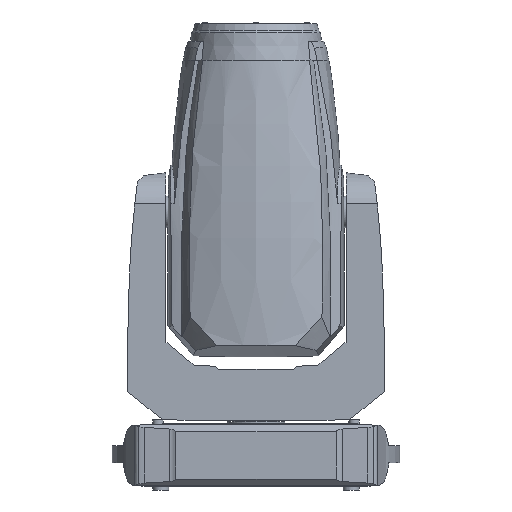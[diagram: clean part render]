
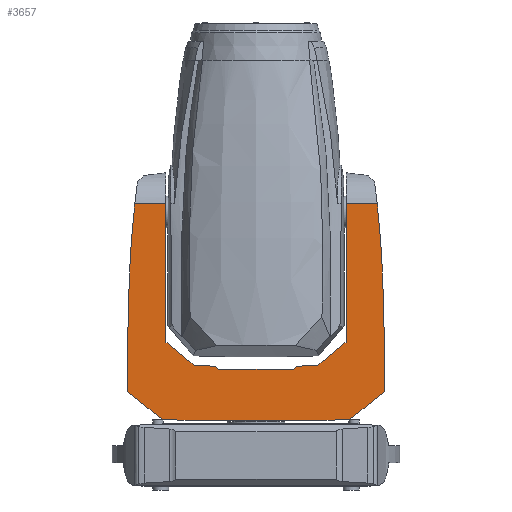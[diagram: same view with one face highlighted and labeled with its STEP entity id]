
A CAD part, front view. The second image highlights one B-rep face of the part: STEP entity #3657.
In plain terms, the highlighted planar face has unit normal (0, -1, 0).
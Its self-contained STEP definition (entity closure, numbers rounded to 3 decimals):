
#278=CIRCLE('',#4021,1603.258);
#281=CIRCLE('',#4025,1603.258);
#290=CIRCLE('',#4050,4394.519);
#291=CIRCLE('',#4051,4394.519);
#550=LINE('',#5866,#780);
#555=LINE('',#5881,#785);
#573=LINE('',#5927,#803);
#574=LINE('',#5930,#804);
#575=LINE('',#5932,#805);
#576=LINE('',#5934,#806);
#577=LINE('',#5936,#807);
#578=LINE('',#5938,#808);
#579=LINE('',#5941,#809);
#580=LINE('',#5942,#810);
#581=LINE('',#5944,#811);
#582=LINE('',#5946,#812);
#583=LINE('',#5948,#813);
#584=LINE('',#5950,#814);
#585=LINE('',#5952,#815);
#586=LINE('',#5954,#816);
#587=LINE('',#5956,#817);
#588=LINE('',#5958,#818);
#780=VECTOR('',#4809,1000.);
#785=VECTOR('',#4820,1000.);
#803=VECTOR('',#4860,1000.);
#804=VECTOR('',#4863,1000.);
#805=VECTOR('',#4864,1000.);
#806=VECTOR('',#4865,1000.);
#807=VECTOR('',#4866,1000.);
#808=VECTOR('',#4867,1000.);
#809=VECTOR('',#4870,1000.);
#810=VECTOR('',#4871,1000.);
#811=VECTOR('',#4872,1000.);
#812=VECTOR('',#4873,1000.);
#813=VECTOR('',#4874,1000.);
#814=VECTOR('',#4875,1000.);
#815=VECTOR('',#4876,1000.);
#816=VECTOR('',#4877,1000.);
#817=VECTOR('',#4878,1000.);
#818=VECTOR('',#4879,1000.);
#1501=ORIENTED_EDGE('',*,*,#2261,.F.);
#1502=ORIENTED_EDGE('',*,*,#2218,.F.);
#1503=ORIENTED_EDGE('',*,*,#2262,.F.);
#1504=ORIENTED_EDGE('',*,*,#2263,.F.);
#1505=ORIENTED_EDGE('',*,*,#2264,.F.);
#1506=ORIENTED_EDGE('',*,*,#2265,.F.);
#1507=ORIENTED_EDGE('',*,*,#2266,.F.);
#1508=ORIENTED_EDGE('',*,*,#2267,.F.);
#1509=ORIENTED_EDGE('',*,*,#2268,.F.);
#1510=ORIENTED_EDGE('',*,*,#2212,.F.);
#1511=ORIENTED_EDGE('',*,*,#2269,.F.);
#1512=ORIENTED_EDGE('',*,*,#2236,.F.);
#1513=ORIENTED_EDGE('',*,*,#2270,.F.);
#1514=ORIENTED_EDGE('',*,*,#2271,.F.);
#1515=ORIENTED_EDGE('',*,*,#2272,.F.);
#1516=ORIENTED_EDGE('',*,*,#2273,.F.);
#1517=ORIENTED_EDGE('',*,*,#2274,.F.);
#1518=ORIENTED_EDGE('',*,*,#2275,.F.);
#1519=ORIENTED_EDGE('',*,*,#2276,.F.);
#1520=ORIENTED_EDGE('',*,*,#2277,.F.);
#1521=ORIENTED_EDGE('',*,*,#2278,.F.);
#1522=ORIENTED_EDGE('',*,*,#2229,.F.);
#2212=EDGE_CURVE('',#2655,#2656,#278,.T.);
#2218=EDGE_CURVE('',#2661,#2662,#281,.T.);
#2229=EDGE_CURVE('',#2669,#2670,#550,.T.);
#2236=EDGE_CURVE('',#2676,#2677,#555,.T.);
#2261=EDGE_CURVE('',#2662,#2669,#573,.F.);
#2262=EDGE_CURVE('',#2694,#2661,#290,.T.);
#2263=EDGE_CURVE('',#2695,#2694,#574,.T.);
#2264=EDGE_CURVE('',#2696,#2695,#575,.T.);
#2265=EDGE_CURVE('',#2697,#2696,#576,.T.);
#2266=EDGE_CURVE('',#2698,#2697,#577,.T.);
#2267=EDGE_CURVE('',#2699,#2698,#578,.T.);
#2268=EDGE_CURVE('',#2656,#2699,#291,.T.);
#2269=EDGE_CURVE('',#2677,#2655,#579,.F.);
#2270=EDGE_CURVE('',#2700,#2676,#580,.T.);
#2271=EDGE_CURVE('',#2701,#2700,#581,.T.);
#2272=EDGE_CURVE('',#2702,#2701,#582,.T.);
#2273=EDGE_CURVE('',#2703,#2702,#583,.T.);
#2274=EDGE_CURVE('',#2704,#2703,#584,.T.);
#2275=EDGE_CURVE('',#2705,#2704,#585,.T.);
#2276=EDGE_CURVE('',#2706,#2705,#586,.T.);
#2277=EDGE_CURVE('',#2707,#2706,#587,.T.);
#2278=EDGE_CURVE('',#2670,#2707,#588,.T.);
#2655=VERTEX_POINT('',#5814);
#2656=VERTEX_POINT('',#5816);
#2661=VERTEX_POINT('',#5835);
#2662=VERTEX_POINT('',#5837);
#2669=VERTEX_POINT('',#5865);
#2670=VERTEX_POINT('',#5867);
#2676=VERTEX_POINT('',#5880);
#2677=VERTEX_POINT('',#5882);
#2694=VERTEX_POINT('',#5929);
#2695=VERTEX_POINT('',#5931);
#2696=VERTEX_POINT('',#5933);
#2697=VERTEX_POINT('',#5935);
#2698=VERTEX_POINT('',#5937);
#2699=VERTEX_POINT('',#5939);
#2700=VERTEX_POINT('',#5943);
#2701=VERTEX_POINT('',#5945);
#2702=VERTEX_POINT('',#5947);
#2703=VERTEX_POINT('',#5949);
#2704=VERTEX_POINT('',#5951);
#2705=VERTEX_POINT('',#5953);
#2706=VERTEX_POINT('',#5955);
#2707=VERTEX_POINT('',#5957);
#3039=EDGE_LOOP('',(#1501,#1502,#1503,#1504,#1505,#1506,#1507,#1508,#1509,
#1510,#1511,#1512,#1513,#1514,#1515,#1516,#1517,#1518,#1519,#1520,#1521,
#1522));
#3311=FACE_BOUND('',#3039,.T.);
#3495=PLANE('',#4049);
#3657=ADVANCED_FACE('',(#3311),#3495,.F.);
#4021=AXIS2_PLACEMENT_3D('',#5815,#4775,#4776);
#4025=AXIS2_PLACEMENT_3D('',#5836,#4785,#4786);
#4049=AXIS2_PLACEMENT_3D('',#5926,#4858,#4859);
#4050=AXIS2_PLACEMENT_3D('',#5928,#4861,#4862);
#4051=AXIS2_PLACEMENT_3D('',#5940,#4868,#4869);
#4775=DIRECTION('',(0.,1.,0.));
#4776=DIRECTION('',(-1.,0.,0.));
#4785=DIRECTION('',(0.,1.,0.));
#4786=DIRECTION('',(-1.,0.,0.));
#4809=DIRECTION('',(0.,0.,-1.));
#4820=DIRECTION('',(0.,0.,1.));
#4858=DIRECTION('',(0.,1.,0.));
#4859=DIRECTION('',(0.,0.,1.));
#4860=DIRECTION('',(-1.,0.,0.));
#4861=DIRECTION('',(0.,1.,0.));
#4862=DIRECTION('',(1.,0.,0.));
#4863=DIRECTION('',(-0.779,0.,0.627));
#4864=DIRECTION('',(-1.,0.,0.026));
#4865=DIRECTION('',(-1.,0.,0.));
#4866=DIRECTION('',(-1.,0.,-0.026));
#4867=DIRECTION('',(-0.779,0.,-0.627));
#4868=DIRECTION('',(0.,1.,0.));
#4869=DIRECTION('',(-1.,0.,0.));
#4870=DIRECTION('',(-1.,0.,0.));
#4871=DIRECTION('',(1.,0.,0.));
#4872=DIRECTION('',(0.766,0.,0.643));
#4873=DIRECTION('',(0.999,0.,0.052));
#4874=DIRECTION('',(0.766,0.,0.643));
#4875=DIRECTION('',(1.,0.,0.));
#4876=DIRECTION('',(0.766,0.,-0.643));
#4877=DIRECTION('',(0.999,0.,-0.052));
#4878=DIRECTION('',(0.766,0.,-0.643));
#4879=DIRECTION('',(1.,0.,0.));
#5814=CARTESIAN_POINT('',(192.684,-63.1,377.415));
#5815=CARTESIAN_POINT('',(-1400.769,-63.1,200.371));
#5816=CARTESIAN_POINT('',(201.337,-63.1,261.14));
#5835=CARTESIAN_POINT('',(-201.337,-63.1,261.14));
#5836=CARTESIAN_POINT('',(1400.769,-63.1,200.371));
#5837=CARTESIAN_POINT('',(-192.684,-63.1,377.415));
#5865=CARTESIAN_POINT('',(-143.3,-63.1,377.415));
#5866=CARTESIAN_POINT('',(-143.3,-63.1,156.4));
#5867=CARTESIAN_POINT('',(-143.3,-63.1,156.4));
#5880=CARTESIAN_POINT('',(143.3,-63.1,156.4));
#5881=CARTESIAN_POINT('',(143.3,-63.1,426.814));
#5882=CARTESIAN_POINT('',(143.3,-63.1,377.415));
#5926=CARTESIAN_POINT('',(-1400.769,-63.1,200.371));
#5927=CARTESIAN_POINT('',(205.,-63.1,377.415));
#5928=CARTESIAN_POINT('',(4190.073,-63.1,95.878));
#5929=CARTESIAN_POINT('',(-204.414,-63.1,79.156));
#5930=CARTESIAN_POINT('',(-148.918,-63.1,34.503));
#5931=CARTESIAN_POINT('',(-148.918,-63.1,34.503));
#5932=CARTESIAN_POINT('',(-103.001,-63.1,33.301));
#5933=CARTESIAN_POINT('',(-103.001,-63.1,33.301));
#5934=CARTESIAN_POINT('',(102.999,-63.1,33.296));
#5935=CARTESIAN_POINT('',(102.999,-63.1,33.296));
#5936=CARTESIAN_POINT('',(102.999,-63.1,33.296));
#5937=CARTESIAN_POINT('',(148.913,-63.1,34.499));
#5938=CARTESIAN_POINT('',(148.913,-63.1,34.499));
#5939=CARTESIAN_POINT('',(204.414,-63.1,79.156));
#5940=CARTESIAN_POINT('',(-4190.073,-63.1,95.878));
#5941=CARTESIAN_POINT('',(205.,-63.1,377.415));
#5942=CARTESIAN_POINT('',(143.3,-63.1,156.4));
#5943=CARTESIAN_POINT('',(140.592,-63.1,156.4));
#5944=CARTESIAN_POINT('',(140.592,-63.1,156.4));
#5945=CARTESIAN_POINT('',(98.504,-63.1,121.084));
#5946=CARTESIAN_POINT('',(98.504,-63.1,121.084));
#5947=CARTESIAN_POINT('',(65.064,-63.1,119.332));
#5948=CARTESIAN_POINT('',(65.064,-63.1,119.332));
#5949=CARTESIAN_POINT('',(58.949,-63.1,114.2));
#5950=CARTESIAN_POINT('',(58.949,-63.1,114.2));
#5951=CARTESIAN_POINT('',(-58.949,-63.1,114.2));
#5952=CARTESIAN_POINT('',(-58.949,-63.1,114.2));
#5953=CARTESIAN_POINT('',(-65.064,-63.1,119.332));
#5954=CARTESIAN_POINT('',(-65.064,-63.1,119.332));
#5955=CARTESIAN_POINT('',(-98.504,-63.1,121.084));
#5956=CARTESIAN_POINT('',(-98.504,-63.1,121.084));
#5957=CARTESIAN_POINT('',(-140.592,-63.1,156.4));
#5958=CARTESIAN_POINT('',(-140.592,-63.1,156.4));
